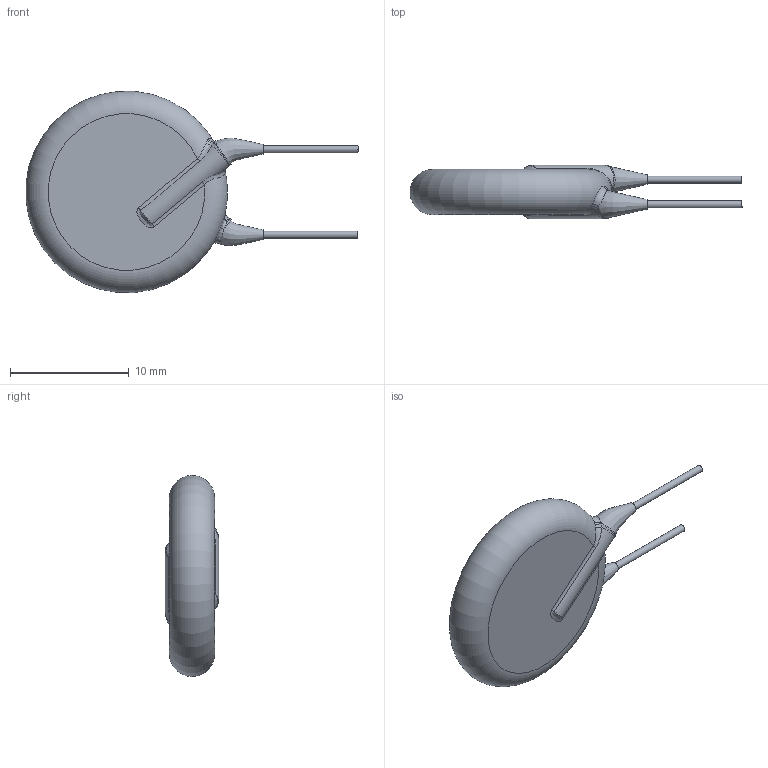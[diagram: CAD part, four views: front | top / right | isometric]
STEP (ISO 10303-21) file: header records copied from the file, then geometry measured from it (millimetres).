
FILE_DESCRIPTION(/* description */ (''),/* implementation_level */ '2;1');
FILE_NAME(/* name */ 'I:\Marketing\M6t1\3D-Models\Zchng-Werk-3\Upload for homepage\Roederstein\WYO\Y5U_250-440\WYO822MCMCD0KR\WYO822MCMCD0KR.stp',/* time_stamp */ '2018-03-20T15:55:03+01:00',/* author */ ('sheinrich'),/* organization */ (''),/* preprocessor_version */ 'ST-DEVELOPER v16.1',/* originating_system */ 'Autodesk Inventor 2016',/* authorisation */ '');
FILE_SCHEMA (('AUTOMOTIVE_DESIGN { 1 0 10303 214 3 1 1 }'));
Length unit declared in the file: centimetre
Products named in the file (1): WYO822MCMCD0KR
Bounding box: 27.97 x 4.5 x 16.94 mm (x, y, z)
Volume: 816.5 mm3; surface area: 636.7 mm2
Topology: 1 solids, 1 shells, 43 faces, 96 edges, 57 vertices
Faces by surface type: bspline 22, cylinder 8, torus 7, plane 6
Full cylindrical faces by diameter (mm): 0.6 x2
Entity records: 2154 total; most frequent: CARTESIAN_POINT 1273, ORIENTED_EDGE 184, DIRECTION 124, EDGE_CURVE 92, AXIS2_PLACEMENT_3D 58, VERTEX_POINT 56, B_SPLINE_CURVE_WITH_KNOTS 48, EDGE_LOOP 48
